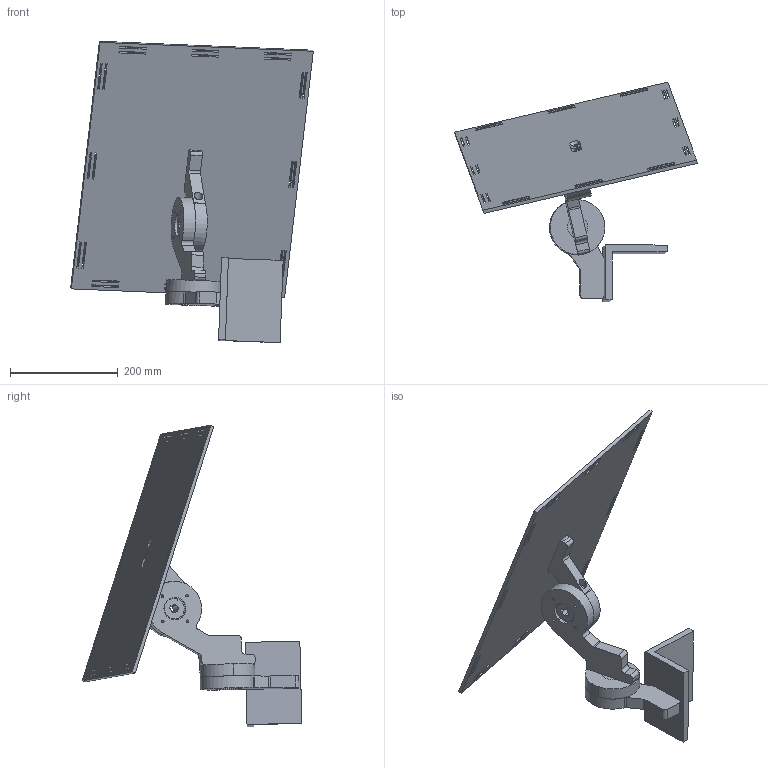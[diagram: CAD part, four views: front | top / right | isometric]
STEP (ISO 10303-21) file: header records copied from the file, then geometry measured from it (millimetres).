
FILE_DESCRIPTION (( 'STEP AP203' ), '1' );
FILE_NAME ('Final assembly.STEP', '2026-03-12T23:48:01', ( '' ), ( '' ), 'SwSTEP 2.0', 'SolidWorks 2025', '' );
FILE_SCHEMA (( 'CONFIG_CONTROL_DESIGN' ));
Length unit declared in the file: inch
Products named in the file (9): Final assembly; middle arm 1 rev1; keyed shaft rev1; Base arm piece rev1; middle coupling rev02; 91253A352_Black-Oxide Alloy Steel Hex Drive Flat Head Screw_91253A352; ARM1 rev1; table angle iron rev02; HP-Mounting-Plate rev02
Assembly tree (10 placements, depth 2):
  Final assembly
    ARM1 rev1
    Base arm piece rev1
    HP-Mounting-Plate rev02
    keyed shaft rev1  x2
    middle arm 1 rev1
    middle coupling rev02
    table angle iron rev02
    91253A352_Black-Oxide Alloy Steel Hex Drive Flat Head Screw_91253A352  x2
Bounding box: 449.84 x 407.19 x 558.9 mm (x, y, z)
Volume: 2554318.1 mm3; surface area: 651173.7 mm2
Topology: 10 solids, 10 shells, 376 faces, 992 edges, 638 vertices
Faces by surface type: plane 188, cylinder 144, cone 38, bspline 6
Entity records: 13267 total; most frequent: CARTESIAN_POINT 4167, ORIENTED_EDGE 1680, DIRECTION 1637, EDGE_CURVE 840, VECTOR 557, LINE 557, VERTEX_POINT 546, AXIS2_PLACEMENT_3D 540
